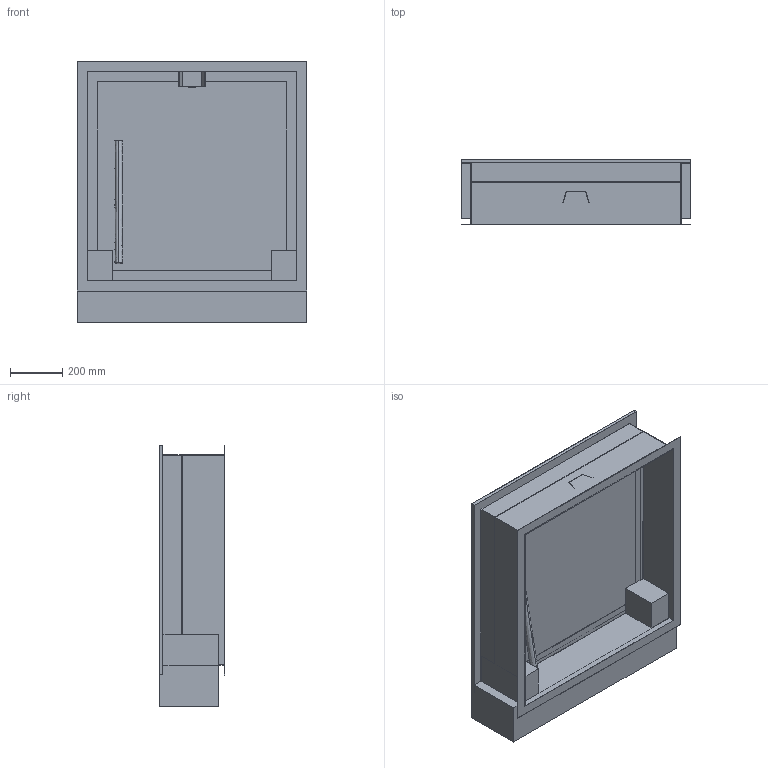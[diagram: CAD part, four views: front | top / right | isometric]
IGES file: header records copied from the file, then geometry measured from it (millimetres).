
Start section:  PTC IGES file: 51639710.igs
Global section: file name: 51639710.igs; native system: Creo Parametric by PTC Inc.; preprocessor: 2019224; author: slc; organization: Unknown; date: 20210611.081543; units: millimetre
Bounding box: 878 x 250 x 1000 mm (x, y, z)
Surface area: 4292179.1 mm2 (no closed solid volume)
Topology: 0 solids, 0 shells, 88 faces, 462 edges, 462 vertices
Faces by surface type: bspline 79, revolution 9
